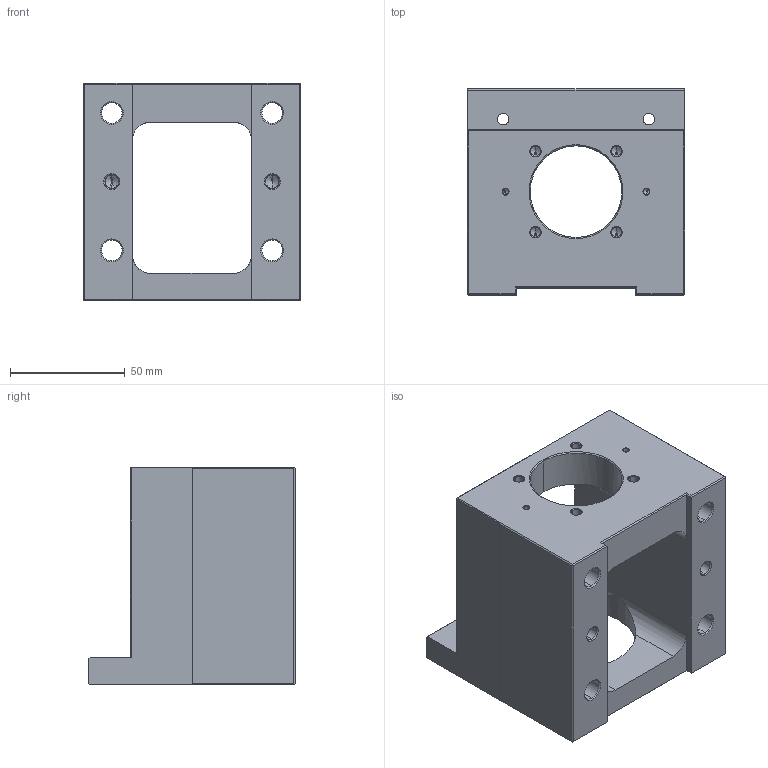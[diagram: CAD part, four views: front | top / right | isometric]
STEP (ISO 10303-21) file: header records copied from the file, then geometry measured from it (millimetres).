
FILE_DESCRIPTION(/* description */ (''),/* implementation_level */ '2;1');
FILE_NAME(/* name */ 'M80E-FK15-H.stp',/* time_stamp */ '2017-08-17T16:14:31+08:00',/* author */ (''),/* organization */ (''),/* preprocessor_version */ 'ST-DEVELOPER v15',/* originating_system */ 'SIEMENS PLM Software NX 9.0',/* authorisation */ '');
FILE_SCHEMA (('CONFIG_CONTROL_DESIGN'));
Length unit declared in the file: millimetre
Products named in the file (1): MBH15-E
Bounding box: 95 x 90 x 95 mm (x, y, z)
Volume: 332683.7 mm3; surface area: 67371.1 mm2
Topology: 1 solids, 1 shells, 195 faces, 481 edges, 275 vertices
Faces by surface type: cone 82, cylinder 64, plane 49
Entity records: 5731 total; most frequent: CARTESIAN_POINT 1044, DIRECTION 1019, ORIENTED_EDGE 906, EDGE_CURVE 453, AXIS2_PLACEMENT_3D 380, VERTEX_POINT 275, LINE 259, VECTOR 259
